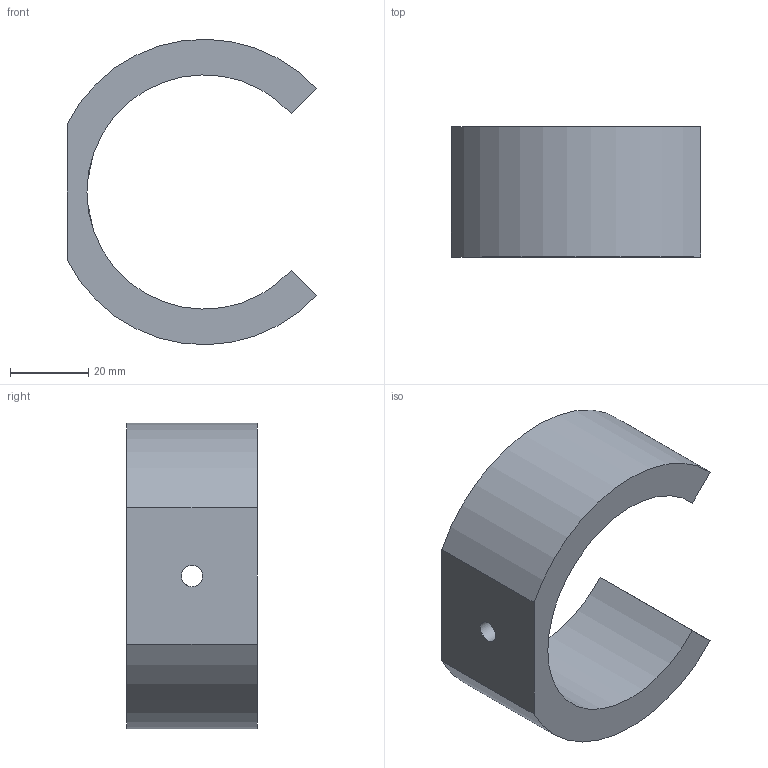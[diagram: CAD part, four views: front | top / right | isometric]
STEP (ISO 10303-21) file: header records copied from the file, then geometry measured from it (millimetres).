
FILE_DESCRIPTION(/* description */ (''),/* implementation_level */ '2;1');
FILE_NAME(/* name */ 'Pax_Koncowka1_elipsa v3.step',/* time_stamp */ '2026-04-10T14:25:20+02:00',/* author */ (''),/* organization */ (''),/* preprocessor_version */ 'ST-DEVELOPER v20.1',/* originating_system */ 'Autodesk Translation Framework v14.24.0.0',/* authorisation */ '');
FILE_SCHEMA (('AUTOMOTIVE_DESIGN { 1 0 10303 214 3 1 1 }','MODEL_BASED_INTEGRATED_MANUFACTURING_SCHEMA'));
Length unit declared in the file: millimetre
Products named in the file (1): (Niezapisany)
Bounding box: 63.83 x 33.4 x 78.24 mm (x, y, z)
Volume: 47321.2 mm3; surface area: 14552.4 mm2
Topology: 1 solids, 1 shells, 9 faces, 22 edges, 15 vertices
Faces by surface type: plane 5, cylinder 4
Full cylindrical faces by diameter (mm): 5.5 x1
Entity records: 338 total; most frequent: CARTESIAN_POINT 81, DIRECTION 47, ORIENTED_EDGE 44, EDGE_CURVE 22, AXIS2_PLACEMENT_3D 17, VERTEX_POINT 15, LINE 13, VECTOR 13
